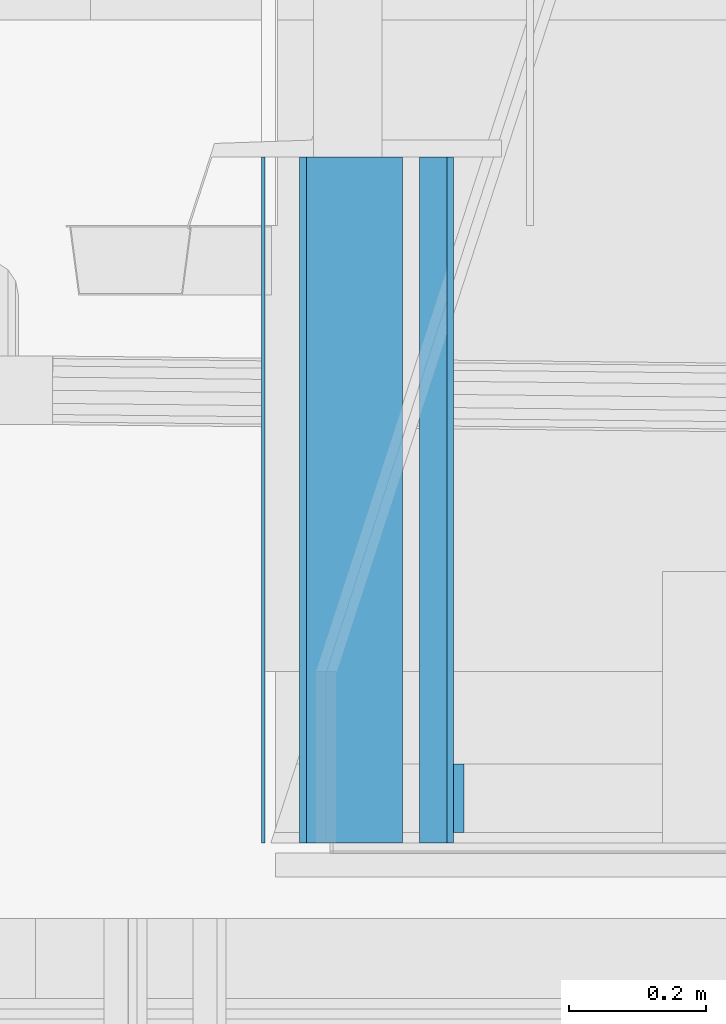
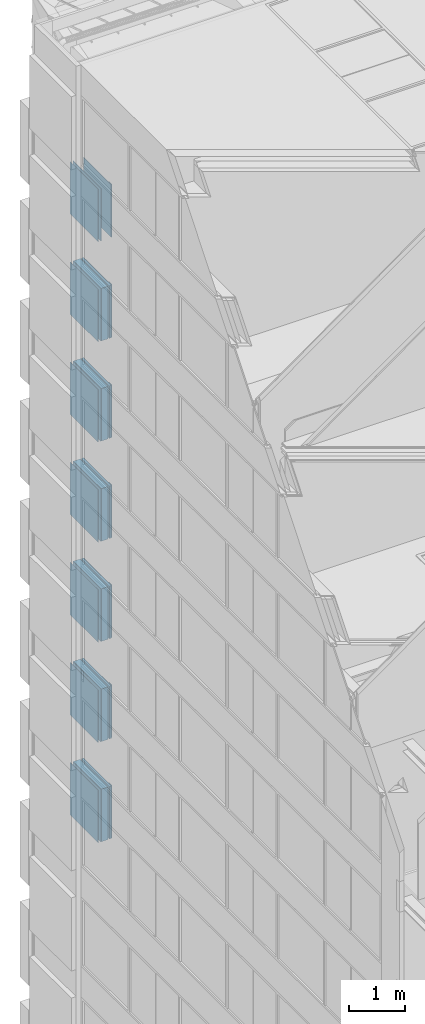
# One storey, part 131 of 583: 40 building element parts, 7 elements without a shape of their own.
"""IFC2X3 building model written with IfcOpenShell, lengths in metres."""

from ifc_helpers import new_model, entity, si_unit, converted_unit, derived_unit, money_unit, direction, frame, frame_2d, origin_with_axes, place, context, subcontext, project, spatial, rectangle, extrude, material, type_object, element, aggregate, save


model = new_model("IFC2X3")

# Units and contexts
model_context = context("Model", 3, precision=1e-05, world=origin_with_axes(), true_north=direction((0.0, 1.0)))
body_context = subcontext(model_context, "Body", "Model", "MODEL_VIEW", scale=1.0)
ifc_project = project(units=[si_unit("LENGTHUNIT", "METRE"), si_unit("AREAUNIT", "SQUARE_METRE"), si_unit("VOLUMEUNIT", "CUBIC_METRE"), si_unit("ABSORBEDDOSEUNIT", "GRAY"), si_unit("AMOUNTOFSUBSTANCEUNIT", "MOLE"), si_unit("DOSEEQUIVALENTUNIT", "SIEVERT"), si_unit("ELECTRICCAPACITANCEUNIT", "FARAD"), si_unit("ELECTRICCHARGEUNIT", "COULOMB"), si_unit("ELECTRICCONDUCTANCEUNIT", "SIEMENS"), si_unit("ELECTRICCURRENTUNIT", "AMPERE"), si_unit("ELECTRICRESISTANCEUNIT", "OHM"), si_unit("ELECTRICVOLTAGEUNIT", "VOLT"), si_unit("ENERGYUNIT", "JOULE"), si_unit("FORCEUNIT", "NEWTON"), si_unit("FREQUENCYUNIT", "HERTZ"), si_unit("ILLUMINANCEUNIT", "LUX"), si_unit("INDUCTANCEUNIT", "HENRY"), si_unit("LUMINOUSFLUXUNIT", "LUMEN"), si_unit("LUMINOUSINTENSITYUNIT", "CANDELA"), si_unit("MAGNETICFLUXDENSITYUNIT", "TESLA"), si_unit("MAGNETICFLUXUNIT", "WEBER"), si_unit("MASSUNIT", "GRAM"), converted_unit("PLANEANGLEUNIT", "degree", entity("IfcReal", 0.0174532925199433), si_unit("PLANEANGLEUNIT", "RADIAN"), dimensions=[0, 0, 0, 0, 0, 0, 0]), si_unit("POWERUNIT", "WATT"), si_unit("PRESSUREUNIT", "PASCAL"), si_unit("RADIOACTIVITYUNIT", "BECQUEREL"), si_unit("SOLIDANGLEUNIT", "STERADIAN"), si_unit("THERMODYNAMICTEMPERATUREUNIT", "KELVIN"), si_unit("TIMEUNIT", "SECOND"), derived_unit("ACCELERATIONUNIT", [(si_unit("LENGTHUNIT", "METRE"), 1), (si_unit("TIMEUNIT", "SECOND"), -2)]), derived_unit("ANGULARVELOCITYUNIT", [(converted_unit("PLANEANGLEUNIT", "degree", entity("IfcReal", 0.0174532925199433), si_unit("PLANEANGLEUNIT", "RADIAN"), dimensions=[0, 0, 0, 0, 0, 0, 0]), 1), (si_unit("TIMEUNIT", "SECOND"), -1)]), derived_unit("CURVATUREUNIT", [(converted_unit("PLANEANGLEUNIT", "degree", entity("IfcReal", 0.0174532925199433), si_unit("PLANEANGLEUNIT", "RADIAN"), dimensions=[0, 0, 0, 0, 0, 0, 0]), 1), (si_unit("LENGTHUNIT", "METRE"), -1)]), derived_unit("DYNAMICVISCOSITYUNIT", [(si_unit("PRESSUREUNIT", "PASCAL"), 1), (si_unit("TIMEUNIT", "SECOND"), 1)]), derived_unit("HEATFLUXDENSITYUNIT", [(si_unit("POWERUNIT", "WATT"), 1), (si_unit("LENGTHUNIT", "METRE"), -2)]), derived_unit("HEATINGVALUEUNIT", [(si_unit("ENERGYUNIT", "JOULE"), 1), (si_unit("MASSUNIT", "GRAM"), -1)]), derived_unit("INTEGERCOUNTRATEUNIT", [(si_unit("TIMEUNIT", "SECOND"), -1)]), derived_unit("IONCONCENTRATIONUNIT", [(si_unit("MASSUNIT", "GRAM"), 1), (si_unit("VOLUMEUNIT", "CUBIC_METRE"), -1)]), derived_unit("ISOTHERMALMOISTURECAPACITYUNIT", [(si_unit("VOLUMEUNIT", "CUBIC_METRE"), 1), (si_unit("MASSUNIT", "GRAM"), -1)]), derived_unit("KINEMATICVISCOSITYUNIT", [(si_unit("AREAUNIT", "SQUARE_METRE"), 1), (si_unit("TIMEUNIT", "SECOND"), -1)]), derived_unit("LINEARFORCEUNIT", [(si_unit("FORCEUNIT", "NEWTON"), 1), (si_unit("LENGTHUNIT", "METRE"), -1)]), derived_unit("LINEARMOMENTUNIT", [(si_unit("FORCEUNIT", "NEWTON"), 1), (si_unit("LENGTHUNIT", "METRE"), -1)]), derived_unit("LINEARSTIFFNESSUNIT", [(si_unit("FORCEUNIT", "NEWTON"), 1), (si_unit("LENGTHUNIT", "METRE"), -1)]), derived_unit("LINEARVELOCITYUNIT", [(si_unit("LENGTHUNIT", "METRE"), 1), (si_unit("TIMEUNIT", "SECOND"), -1)]), derived_unit("LUMINOUSINTENSITYDISTRIBUTIONUNIT", [(si_unit("LUMINOUSINTENSITYUNIT", "CANDELA"), 1), (si_unit("LUMINOUSFLUXUNIT", "LUMEN"), -1)]), derived_unit("MASSDENSITYUNIT", [(si_unit("MASSUNIT", "GRAM"), 1), (si_unit("VOLUMEUNIT", "CUBIC_METRE"), -1)]), derived_unit("MASSFLOWRATEUNIT", [(si_unit("MASSUNIT", "GRAM"), 1), (si_unit("TIMEUNIT", "SECOND"), -1)]), derived_unit("MASSPERLENGTHUNIT", [(si_unit("MASSUNIT", "GRAM"), 1), (si_unit("LENGTHUNIT", "METRE"), -1)]), derived_unit("MODULUSOFELASTICITYUNIT", [(si_unit("FORCEUNIT", "NEWTON"), 1), (si_unit("AREAUNIT", "SQUARE_METRE"), -1)]), derived_unit("MODULUSOFLINEARSUBGRADEREACTIONUNIT", [(si_unit("FORCEUNIT", "NEWTON"), 1), (si_unit("LENGTHUNIT", "METRE"), -2)]), derived_unit("MODULUSOFROTATIONALSUBGRADEREACTIONUNIT", [(si_unit("FORCEUNIT", "NEWTON"), 1), (si_unit("LENGTHUNIT", "METRE"), 1)]), derived_unit("MODULUSOFSUBGRADEREACTIONUNIT", [(si_unit("FORCEUNIT", "NEWTON"), 1), (si_unit("VOLUMEUNIT", "CUBIC_METRE"), -1)]), derived_unit("MOISTUREDIFFUSIVITYUNIT", [(si_unit("VOLUMEUNIT", "CUBIC_METRE"), 1), (si_unit("TIMEUNIT", "SECOND"), -1)]), derived_unit("MOLECULARWEIGHTUNIT", [(si_unit("MASSUNIT", "GRAM"), 1), (si_unit("AMOUNTOFSUBSTANCEUNIT", "MOLE"), -1)]), derived_unit("PLANARFORCEUNIT", [(si_unit("FORCEUNIT", "NEWTON"), 1), (si_unit("LENGTHUNIT", "METRE"), -2)]), derived_unit("ROTATIONALFREQUENCYUNIT", [(si_unit("TIMEUNIT", "SECOND"), -1)]), derived_unit("ROTATIONALMASSUNIT", [(si_unit("MASSUNIT", "GRAM"), 1), (si_unit("LENGTHUNIT", "METRE"), 2)]), derived_unit("ROTATIONALSTIFFNESSUNIT", [(si_unit("FORCEUNIT", "NEWTON"), 1), (si_unit("LENGTHUNIT", "METRE"), 1), (converted_unit("PLANEANGLEUNIT", "degree", entity("IfcReal", 0.0174532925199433), si_unit("PLANEANGLEUNIT", "RADIAN"), dimensions=[0, 0, 0, 0, 0, 0, 0]), -1)]), derived_unit("SECTIONAREAINTEGRALUNIT", [(si_unit("LENGTHUNIT", "METRE"), 5)]), derived_unit("SECTIONMODULUSUNIT", [(si_unit("LENGTHUNIT", "METRE"), 3)]), derived_unit("SHEARMODULUSUNIT", [(si_unit("FORCEUNIT", "NEWTON"), 1), (si_unit("AREAUNIT", "SQUARE_METRE"), -1)]), derived_unit("SOUNDPOWERUNIT", [(si_unit("ENERGYUNIT", "JOULE"), 1), (si_unit("TIMEUNIT", "SECOND"), -1)]), derived_unit("SPECIFICHEATCAPACITYUNIT", [(si_unit("FORCEUNIT", "NEWTON"), 1), (si_unit("MASSUNIT", "GRAM"), -1), (si_unit("THERMODYNAMICTEMPERATUREUNIT", "KELVIN"), -1)]), derived_unit("TEMPERATUREGRADIENTUNIT", [(si_unit("THERMODYNAMICTEMPERATUREUNIT", "KELVIN"), 1), (si_unit("LENGTHUNIT", "METRE"), -1)]), derived_unit("THERMALADMITTANCEUNIT", [(si_unit("POWERUNIT", "WATT"), 1), (si_unit("AREAUNIT", "SQUARE_METRE"), -1), (si_unit("THERMODYNAMICTEMPERATUREUNIT", "KELVIN"), -1)]), derived_unit("THERMALCONDUCTANCEUNIT", [(si_unit("POWERUNIT", "WATT"), 1), (si_unit("LENGTHUNIT", "METRE"), -1), (si_unit("THERMODYNAMICTEMPERATUREUNIT", "KELVIN"), -1)]), derived_unit("THERMALEXPANSIONCOEFFICIENTUNIT", [(si_unit("THERMODYNAMICTEMPERATUREUNIT", "KELVIN"), -1)]), derived_unit("THERMALRESISTANCEUNIT", [(si_unit("AREAUNIT", "SQUARE_METRE"), 1), (si_unit("POWERUNIT", "WATT"), -1)]), derived_unit("THERMALTRANSMITTANCEUNIT", [(si_unit("POWERUNIT", "WATT"), 1), (si_unit("AREAUNIT", "SQUARE_METRE"), -1), (si_unit("THERMODYNAMICTEMPERATUREUNIT", "KELVIN"), -1)]), derived_unit("TORQUEUNIT", [(si_unit("FORCEUNIT", "NEWTON"), 1), (si_unit("LENGTHUNIT", "METRE"), 1)]), derived_unit("VAPORPERMEABILITYUNIT", [(si_unit("MASSUNIT", "GRAM"), 1), (si_unit("TIMEUNIT", "SECOND"), -1)]), derived_unit("VOLUMETRICFLOWRATEUNIT", [(si_unit("VOLUMEUNIT", "CUBIC_METRE"), 1), (si_unit("TIMEUNIT", "SECOND"), -1)]), derived_unit("WARPINGCONSTANTUNIT", [(si_unit("LENGTHUNIT", "METRE"), 6)]), derived_unit("WARPINGMOMENTUNIT", [(si_unit("FORCEUNIT", "NEWTON"), 1), (si_unit("LENGTHUNIT", "METRE"), 2)]), money_unit("GBP")], contexts=[model_context])

# Site, building, storey
site_placement = place(None, origin_with_axes())
site = spatial("IfcSite", under=ifc_project, at=site_placement, Name="Site", CompositionType="ELEMENT")
building_placement = place(site_placement, origin_with_axes())
building = spatial("IfcBuilding", under=site, at=building_placement, Name="Building01", CompositionType="ELEMENT")
storey_placement = place(building_placement, frame((0.0, 0.0, 20.78), z_axis=(0.0, 0.0, 1.0), x_axis=(1.0, 0.0, 0.0)))
storey = spatial("IfcBuildingStorey", under=building, at=storey_placement, Name="RL", CompositionType="ELEMENT", Elevation=20.78)

# Wall, building element parts
wall_type = type_object("IfcWallType", Name="SHE_A-Walls_Type06e_ExternalWallPenthouse_280mm", PredefinedType="NOTDEFINED")
wall_1_placement = place(storey_placement, frame((0.565, 14.98, 3.149976), z_axis=(0.0, 1.0, 0.0), x_axis=(0.0, 0.0, -1.0)))
wall_1 = element("IfcWall", 1, at=wall_1_placement, inside=storey, type_object=wall_type, Name="6E", ObjectType="SHE_A-Walls_Type06e_ExternalWallPenthouse_280mm")
ifc_material_1 = material(Name="A_BSUK_Walls_Timber")
placement_1 = place(wall_1_placement, origin_with_axes())
building_element_part_1 = element("IfcBuildingElementPart", 2, at=placement_1, material=ifc_material_1, Name="3", context=body_context, shape_type="SweptSolid", body=[
    extrude(rectangle(XDim=1.149951, YDim=0.015, at=frame_2d((0.574976, -0.2225), x_axis=(-1.0, 0.0))), frame((0.0, 0.0, 0.015), z_axis=(0.0, 0.0, 1.0), x_axis=(1.0, 0.0, 0.0)), (0.0, 0.0, 1.0), 0.1),
])
ifc_material_2 = material(Name="A_BSUK_WallInternal_Finishes_Plasterboard")
building_element_part_2 = element("IfcBuildingElementPart", 3, at=placement_1, material=ifc_material_2, Name="4", context=body_context, shape_type="SweptSolid", body=[
    extrude(rectangle(XDim=1.149951, YDim=0.01, at=frame_2d((0.574976, -0.21), x_axis=(-1.0, 0.0))), origin_with_axes(), (0.0, 0.0, 1.0), 1.0),
])
building_element_part_3 = element("IfcBuildingElementPart", 4, at=placement_1, material=ifc_material_1, Name="5", context=body_context, shape_type="SweptSolid", body=[
    extrude(rectangle(XDim=1.149951, YDim=0.01, at=frame_2d((0.574976, 0.005), x_axis=(-1.0, 0.0))), origin_with_axes(), (0.0, 0.0, 1.0), 1.0),
])
ifc_material_3 = material(Name="A_BSUK_WallInternal_Finishes_Metal")
building_element_part_4 = element("IfcBuildingElementPart", 5, at=placement_1, material=ifc_material_3, Name="6", context=body_context, shape_type="SweptSolid", body=[
    extrude(rectangle(XDim=1.149951, YDim=0.005, at=frame_2d((0.574976, 0.0625), x_axis=(-1.0, 0.0))), origin_with_axes(), (0.0, 0.0, 1.0), 1.0),
])
aggregate(wall_1, [building_element_part_1, building_element_part_2, building_element_part_3, building_element_part_4])

wall_2_placement = place(storey_placement, frame((0.565, 14.98, 0.959976), z_axis=(0.0, 1.0, 0.0), x_axis=(0.0, 0.0, -1.0)))
wall_2 = element("IfcWall", 6, at=wall_2_placement, inside=storey, type_object=wall_type, Name="6E", ObjectType="SHE_A-Walls_Type06e_ExternalWallPenthouse_280mm")
ifc_material_4 = material(Name="A_BSUK_Insulation")
placement_2 = place(wall_2_placement, origin_with_axes())
building_element_part_5 = element("IfcBuildingElementPart", 7, at=placement_2, material=ifc_material_4, Name="1", context=body_context, shape_type="SweptSolid", body=[
    extrude(rectangle(XDim=1.149951, YDim=0.14, at=frame_2d((0.574976, -0.07), x_axis=(-1.0, 0.0))), origin_with_axes(), (0.0, 0.0, 1.0), 1.0),
])
building_element_part_6 = element("IfcBuildingElementPart", 8, at=placement_2, material=ifc_material_4, Name="2", context=body_context, shape_type="SweptSolid", body=[
    extrude(rectangle(XDim=1.149951, YDim=0.04, at=frame_2d((0.574976, -0.185), x_axis=(-1.0, 0.0))), origin_with_axes(), (0.0, 0.0, 1.0), 1.0),
])
building_element_part_7 = element("IfcBuildingElementPart", 9, at=placement_2, material=ifc_material_1, Name="3", context=body_context, shape_type="SweptSolid", body=[
    extrude(rectangle(XDim=1.149951, YDim=0.015, at=frame_2d((0.574976, -0.2225), x_axis=(-1.0, 0.0))), frame((0.0, 0.0, 0.015), z_axis=(0.0, 0.0, 1.0), x_axis=(1.0, 0.0, 0.0)), (0.0, 0.0, 1.0), 0.1),
])
building_element_part_8 = element("IfcBuildingElementPart", 10, at=placement_2, material=ifc_material_2, Name="4", context=body_context, shape_type="SweptSolid", body=[
    extrude(rectangle(XDim=1.149951, YDim=0.01, at=frame_2d((0.574976, -0.21), x_axis=(-1.0, 0.0))), origin_with_axes(), (0.0, 0.0, 1.0), 1.0),
])
building_element_part_9 = element("IfcBuildingElementPart", 11, at=placement_2, material=ifc_material_1, Name="5", context=body_context, shape_type="SweptSolid", body=[
    extrude(rectangle(XDim=1.149951, YDim=0.01, at=frame_2d((0.574976, 0.005), x_axis=(-1.0, 0.0))), origin_with_axes(), (0.0, 0.0, 1.0), 1.0),
])
building_element_part_10 = element("IfcBuildingElementPart", 12, at=placement_2, material=ifc_material_3, Name="6", context=body_context, shape_type="SweptSolid", body=[
    extrude(rectangle(XDim=1.149951, YDim=0.005, at=frame_2d((0.574976, 0.0625), x_axis=(-1.0, 0.0))), origin_with_axes(), (0.0, 0.0, 1.0), 1.0),
])
aggregate(wall_2, [building_element_part_5, building_element_part_6, building_element_part_7, building_element_part_8, building_element_part_9, building_element_part_10])

wall_3_placement = place(storey_placement, frame((0.565, 14.98, -1.230024), z_axis=(0.0, 1.0, 0.0), x_axis=(0.0, 0.0, -1.0)))
wall_3 = element("IfcWall", 13, at=wall_3_placement, inside=storey, type_object=wall_type, Name="6E", ObjectType="SHE_A-Walls_Type06e_ExternalWallPenthouse_280mm")
placement_3 = place(wall_3_placement, origin_with_axes())
building_element_part_11 = element("IfcBuildingElementPart", 14, at=placement_3, material=ifc_material_4, Name="1", context=body_context, shape_type="SweptSolid", body=[
    extrude(rectangle(XDim=1.149951, YDim=0.14, at=frame_2d((0.574976, -0.07), x_axis=(-1.0, 0.0))), origin_with_axes(), (0.0, 0.0, 1.0), 1.0),
])
building_element_part_12 = element("IfcBuildingElementPart", 15, at=placement_3, material=ifc_material_4, Name="2", context=body_context, shape_type="SweptSolid", body=[
    extrude(rectangle(XDim=1.149951, YDim=0.04, at=frame_2d((0.574976, -0.185), x_axis=(-1.0, 0.0))), origin_with_axes(), (0.0, 0.0, 1.0), 1.0),
])
building_element_part_13 = element("IfcBuildingElementPart", 16, at=placement_3, material=ifc_material_1, Name="3", context=body_context, shape_type="SweptSolid", body=[
    extrude(rectangle(XDim=1.149951, YDim=0.015, at=frame_2d((0.574976, -0.2225), x_axis=(-1.0, 0.0))), frame((0.0, 0.0, 0.015), z_axis=(0.0, 0.0, 1.0), x_axis=(1.0, 0.0, 0.0)), (0.0, 0.0, 1.0), 0.1),
])
building_element_part_14 = element("IfcBuildingElementPart", 17, at=placement_3, material=ifc_material_2, Name="4", context=body_context, shape_type="SweptSolid", body=[
    extrude(rectangle(XDim=1.149951, YDim=0.01, at=frame_2d((0.574976, -0.21), x_axis=(-1.0, 0.0))), origin_with_axes(), (0.0, 0.0, 1.0), 1.0),
])
building_element_part_15 = element("IfcBuildingElementPart", 18, at=placement_3, material=ifc_material_1, Name="5", context=body_context, shape_type="SweptSolid", body=[
    extrude(rectangle(XDim=1.149951, YDim=0.01, at=frame_2d((0.574976, 0.005), x_axis=(-1.0, 0.0))), origin_with_axes(), (0.0, 0.0, 1.0), 1.0),
])
building_element_part_16 = element("IfcBuildingElementPart", 19, at=placement_3, material=ifc_material_3, Name="6", context=body_context, shape_type="SweptSolid", body=[
    extrude(rectangle(XDim=1.149951, YDim=0.005, at=frame_2d((0.574976, 0.0625), x_axis=(-1.0, 0.0))), origin_with_axes(), (0.0, 0.0, 1.0), 1.0),
])
aggregate(wall_3, [building_element_part_11, building_element_part_12, building_element_part_13, building_element_part_14, building_element_part_15, building_element_part_16])

wall_4_placement = place(storey_placement, frame((0.565, 14.98, -3.420024), z_axis=(0.0, 1.0, 0.0), x_axis=(0.0, 0.0, -1.0)))
wall_4 = element("IfcWall", 20, at=wall_4_placement, inside=storey, type_object=wall_type, Name="6E", ObjectType="SHE_A-Walls_Type06e_ExternalWallPenthouse_280mm")
placement_4 = place(wall_4_placement, origin_with_axes())
building_element_part_17 = element("IfcBuildingElementPart", 21, at=placement_4, material=ifc_material_4, Name="1", context=body_context, shape_type="SweptSolid", body=[
    extrude(rectangle(XDim=1.149951, YDim=0.14, at=frame_2d((0.574976, -0.07), x_axis=(-1.0, 0.0))), origin_with_axes(), (0.0, 0.0, 1.0), 1.0),
])
building_element_part_18 = element("IfcBuildingElementPart", 22, at=placement_4, material=ifc_material_4, Name="2", context=body_context, shape_type="SweptSolid", body=[
    extrude(rectangle(XDim=1.149951, YDim=0.04, at=frame_2d((0.574976, -0.185), x_axis=(-1.0, 0.0))), origin_with_axes(), (0.0, 0.0, 1.0), 1.0),
])
building_element_part_19 = element("IfcBuildingElementPart", 23, at=placement_4, material=ifc_material_1, Name="3", context=body_context, shape_type="SweptSolid", body=[
    extrude(rectangle(XDim=1.149951, YDim=0.015, at=frame_2d((0.574976, -0.2225), x_axis=(-1.0, 0.0))), frame((0.0, 0.0, 0.015), z_axis=(0.0, 0.0, 1.0), x_axis=(1.0, 0.0, 0.0)), (0.0, 0.0, 1.0), 0.1),
])
building_element_part_20 = element("IfcBuildingElementPart", 24, at=placement_4, material=ifc_material_2, Name="4", context=body_context, shape_type="SweptSolid", body=[
    extrude(rectangle(XDim=1.149951, YDim=0.01, at=frame_2d((0.574976, -0.21), x_axis=(-1.0, 0.0))), origin_with_axes(), (0.0, 0.0, 1.0), 1.0),
])
building_element_part_21 = element("IfcBuildingElementPart", 25, at=placement_4, material=ifc_material_1, Name="5", context=body_context, shape_type="SweptSolid", body=[
    extrude(rectangle(XDim=1.149951, YDim=0.01, at=frame_2d((0.574976, 0.005), x_axis=(-1.0, 0.0))), origin_with_axes(), (0.0, 0.0, 1.0), 1.0),
])
building_element_part_22 = element("IfcBuildingElementPart", 26, at=placement_4, material=ifc_material_3, Name="6", context=body_context, shape_type="SweptSolid", body=[
    extrude(rectangle(XDim=1.149951, YDim=0.005, at=frame_2d((0.574976, 0.0625), x_axis=(-1.0, 0.0))), origin_with_axes(), (0.0, 0.0, 1.0), 1.0),
])
aggregate(wall_4, [building_element_part_17, building_element_part_18, building_element_part_19, building_element_part_20, building_element_part_21, building_element_part_22])

wall_5_placement = place(storey_placement, frame((0.565, 14.98, -5.610024), z_axis=(0.0, 1.0, 0.0), x_axis=(0.0, 0.0, -1.0)))
wall_5 = element("IfcWall", 27, at=wall_5_placement, inside=storey, type_object=wall_type, Name="6E", ObjectType="SHE_A-Walls_Type06e_ExternalWallPenthouse_280mm")
placement_5 = place(wall_5_placement, origin_with_axes())
building_element_part_23 = element("IfcBuildingElementPart", 28, at=placement_5, material=ifc_material_4, Name="1", context=body_context, shape_type="SweptSolid", body=[
    extrude(rectangle(XDim=1.149951, YDim=0.14, at=frame_2d((0.574976, -0.07), x_axis=(-1.0, 0.0))), origin_with_axes(), (0.0, 0.0, 1.0), 1.0),
])
building_element_part_24 = element("IfcBuildingElementPart", 29, at=placement_5, material=ifc_material_4, Name="2", context=body_context, shape_type="SweptSolid", body=[
    extrude(rectangle(XDim=1.149951, YDim=0.04, at=frame_2d((0.574976, -0.185), x_axis=(-1.0, 0.0))), origin_with_axes(), (0.0, 0.0, 1.0), 1.0),
])
building_element_part_25 = element("IfcBuildingElementPart", 30, at=placement_5, material=ifc_material_1, Name="3", context=body_context, shape_type="SweptSolid", body=[
    extrude(rectangle(XDim=1.149951, YDim=0.015, at=frame_2d((0.574976, -0.2225), x_axis=(-1.0, 0.0))), frame((0.0, 0.0, 0.015), z_axis=(0.0, 0.0, 1.0), x_axis=(1.0, 0.0, 0.0)), (0.0, 0.0, 1.0), 0.1),
])
building_element_part_26 = element("IfcBuildingElementPart", 31, at=placement_5, material=ifc_material_2, Name="4", context=body_context, shape_type="SweptSolid", body=[
    extrude(rectangle(XDim=1.149951, YDim=0.01, at=frame_2d((0.574976, -0.21), x_axis=(-1.0, 0.0))), origin_with_axes(), (0.0, 0.0, 1.0), 1.0),
])
building_element_part_27 = element("IfcBuildingElementPart", 32, at=placement_5, material=ifc_material_1, Name="5", context=body_context, shape_type="SweptSolid", body=[
    extrude(rectangle(XDim=1.149951, YDim=0.01, at=frame_2d((0.574976, 0.005), x_axis=(-1.0, 0.0))), origin_with_axes(), (0.0, 0.0, 1.0), 1.0),
])
building_element_part_28 = element("IfcBuildingElementPart", 33, at=placement_5, material=ifc_material_3, Name="6", context=body_context, shape_type="SweptSolid", body=[
    extrude(rectangle(XDim=1.149951, YDim=0.005, at=frame_2d((0.574976, 0.0625), x_axis=(-1.0, 0.0))), origin_with_axes(), (0.0, 0.0, 1.0), 1.0),
])
aggregate(wall_5, [building_element_part_23, building_element_part_24, building_element_part_25, building_element_part_26, building_element_part_27, building_element_part_28])

wall_6_placement = place(storey_placement, frame((0.565, 14.98, -7.800024), z_axis=(0.0, 1.0, 0.0), x_axis=(0.0, 0.0, -1.0)))
wall_6 = element("IfcWall", 34, at=wall_6_placement, inside=storey, type_object=wall_type, Name="6E", ObjectType="SHE_A-Walls_Type06e_ExternalWallPenthouse_280mm")
placement_6 = place(wall_6_placement, origin_with_axes())
building_element_part_29 = element("IfcBuildingElementPart", 35, at=placement_6, material=ifc_material_4, Name="1", context=body_context, shape_type="SweptSolid", body=[
    extrude(rectangle(XDim=1.149951, YDim=0.14, at=frame_2d((0.574976, -0.07), x_axis=(-1.0, 0.0))), origin_with_axes(), (0.0, 0.0, 1.0), 1.0),
])
building_element_part_30 = element("IfcBuildingElementPart", 36, at=placement_6, material=ifc_material_4, Name="2", context=body_context, shape_type="SweptSolid", body=[
    extrude(rectangle(XDim=1.149951, YDim=0.04, at=frame_2d((0.574976, -0.185), x_axis=(-1.0, 0.0))), origin_with_axes(), (0.0, 0.0, 1.0), 1.0),
])
building_element_part_31 = element("IfcBuildingElementPart", 37, at=placement_6, material=ifc_material_1, Name="3", context=body_context, shape_type="SweptSolid", body=[
    extrude(rectangle(XDim=1.149951, YDim=0.015, at=frame_2d((0.574976, -0.2225), x_axis=(-1.0, 0.0))), frame((0.0, 0.0, 0.015), z_axis=(0.0, 0.0, 1.0), x_axis=(1.0, 0.0, 0.0)), (0.0, 0.0, 1.0), 0.1),
])
building_element_part_32 = element("IfcBuildingElementPart", 38, at=placement_6, material=ifc_material_2, Name="4", context=body_context, shape_type="SweptSolid", body=[
    extrude(rectangle(XDim=1.149951, YDim=0.01, at=frame_2d((0.574976, -0.21), x_axis=(-1.0, 0.0))), origin_with_axes(), (0.0, 0.0, 1.0), 1.0),
])
building_element_part_33 = element("IfcBuildingElementPart", 39, at=placement_6, material=ifc_material_1, Name="5", context=body_context, shape_type="SweptSolid", body=[
    extrude(rectangle(XDim=1.149951, YDim=0.01, at=frame_2d((0.574976, 0.005), x_axis=(-1.0, 0.0))), origin_with_axes(), (0.0, 0.0, 1.0), 1.0),
])
building_element_part_34 = element("IfcBuildingElementPart", 40, at=placement_6, material=ifc_material_3, Name="6", context=body_context, shape_type="SweptSolid", body=[
    extrude(rectangle(XDim=1.149951, YDim=0.005, at=frame_2d((0.574976, 0.0625), x_axis=(-1.0, 0.0))), origin_with_axes(), (0.0, 0.0, 1.0), 1.0),
])
aggregate(wall_6, [building_element_part_29, building_element_part_30, building_element_part_31, building_element_part_32, building_element_part_33, building_element_part_34])

wall_7_placement = place(storey_placement, frame((0.565, 14.98, -9.990024), z_axis=(0.0, 1.0, 0.0), x_axis=(0.0, 0.0, -1.0)))
wall_7 = element("IfcWall", 41, at=wall_7_placement, inside=storey, type_object=wall_type, Name="6E", ObjectType="SHE_A-Walls_Type06e_ExternalWallPenthouse_280mm")
placement_7 = place(wall_7_placement, origin_with_axes())
building_element_part_35 = element("IfcBuildingElementPart", 42, at=placement_7, material=ifc_material_4, Name="1", context=body_context, shape_type="SweptSolid", body=[
    extrude(rectangle(XDim=1.149951, YDim=0.14, at=frame_2d((0.574976, -0.07), x_axis=(-1.0, 0.0))), origin_with_axes(), (0.0, 0.0, 1.0), 1.0),
])
building_element_part_36 = element("IfcBuildingElementPart", 43, at=placement_7, material=ifc_material_4, Name="2", context=body_context, shape_type="SweptSolid", body=[
    extrude(rectangle(XDim=1.149951, YDim=0.04, at=frame_2d((0.574976, -0.185), x_axis=(-1.0, 0.0))), origin_with_axes(), (0.0, 0.0, 1.0), 1.0),
])
building_element_part_37 = element("IfcBuildingElementPart", 44, at=placement_7, material=ifc_material_1, Name="3", context=body_context, shape_type="SweptSolid", body=[
    extrude(rectangle(XDim=1.149951, YDim=0.015, at=frame_2d((0.574976, -0.2225), x_axis=(-1.0, 0.0))), frame((0.0, 0.0, 0.015), z_axis=(0.0, 0.0, 1.0), x_axis=(1.0, 0.0, 0.0)), (0.0, 0.0, 1.0), 0.1),
])
building_element_part_38 = element("IfcBuildingElementPart", 45, at=placement_7, material=ifc_material_2, Name="4", context=body_context, shape_type="SweptSolid", body=[
    extrude(rectangle(XDim=1.149951, YDim=0.01, at=frame_2d((0.574976, -0.21), x_axis=(-1.0, 0.0))), origin_with_axes(), (0.0, 0.0, 1.0), 1.0),
])
building_element_part_39 = element("IfcBuildingElementPart", 46, at=placement_7, material=ifc_material_1, Name="5", context=body_context, shape_type="SweptSolid", body=[
    extrude(rectangle(XDim=1.149951, YDim=0.01, at=frame_2d((0.574976, 0.005), x_axis=(-1.0, 0.0))), origin_with_axes(), (0.0, 0.0, 1.0), 1.0),
])
building_element_part_40 = element("IfcBuildingElementPart", 47, at=placement_7, material=ifc_material_3, Name="6", context=body_context, shape_type="SweptSolid", body=[
    extrude(rectangle(XDim=1.149951, YDim=0.005, at=frame_2d((0.574976, 0.0625), x_axis=(-1.0, 0.0))), origin_with_axes(), (0.0, 0.0, 1.0), 1.0),
])
aggregate(wall_7, [building_element_part_35, building_element_part_36, building_element_part_37, building_element_part_38, building_element_part_39, building_element_part_40])

save(model, "model.ifc")
